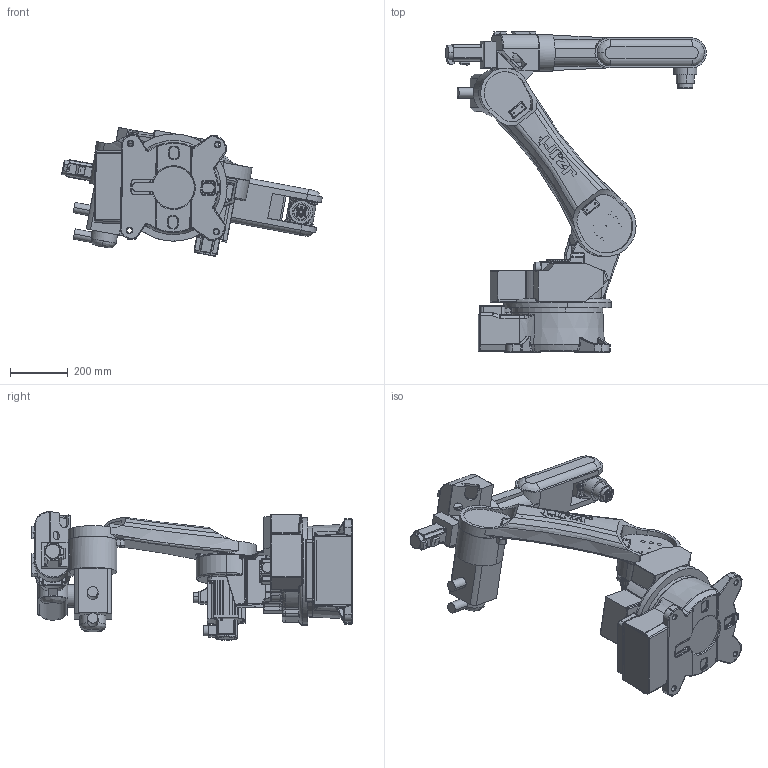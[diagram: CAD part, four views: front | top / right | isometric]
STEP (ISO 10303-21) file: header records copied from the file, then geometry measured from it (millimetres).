
FILE_DESCRIPTION (( 'STEP AP203' ), '1' );
FILE_NAME ('JZJ-10A-147.STEP', '2018-04-28T08:40:57', ( 'ﾎ｢ﾈ橆ﾃｻｧ' ), ( 'ﾎ｢ﾈ晥ｫﾋｾ' ), 'SwSTEP 2.0', 'SolidWorks 2012', '' );
FILE_SCHEMA (( 'CONFIG_CONTROL_DESIGN' ));
Length unit declared in the file: millimetre
Products named in the file (7): JZJ-10A-147; JZJ-10A-147-06; JZJ-10A-147-05; JZJ-10A-147-04; JZJ-10A-147-03; JZJ10A-147-02; JZJ10A-147-01
Assembly tree (6 placements, depth 2):
  JZJ-10A-147
    JZJ10A-147-01
    JZJ10A-147-02
    JZJ-10A-147-03
    JZJ-10A-147-04
    JZJ-10A-147-05
    JZJ-10A-147-06
Bounding box: 899.15 x 1106.17 x 444.32 mm (x, y, z)
Volume: 34275921 mm3; surface area: 2719526 mm2
Topology: 8 solids, 35 shells, 2922 faces, 7625 edges, 4609 vertices
Faces by surface type: plane 1128, cylinder 989, bspline 434, torus 210, cone 101, sphere 60
Entity records: 110012 total; most frequent: CARTESIAN_POINT 40607, ORIENTED_EDGE 14904, DIRECTION 14024, EDGE_CURVE 7452, AXIS2_PLACEMENT_3D 5339, VERTEX_POINT 4609, LINE 3346, VECTOR 3346
